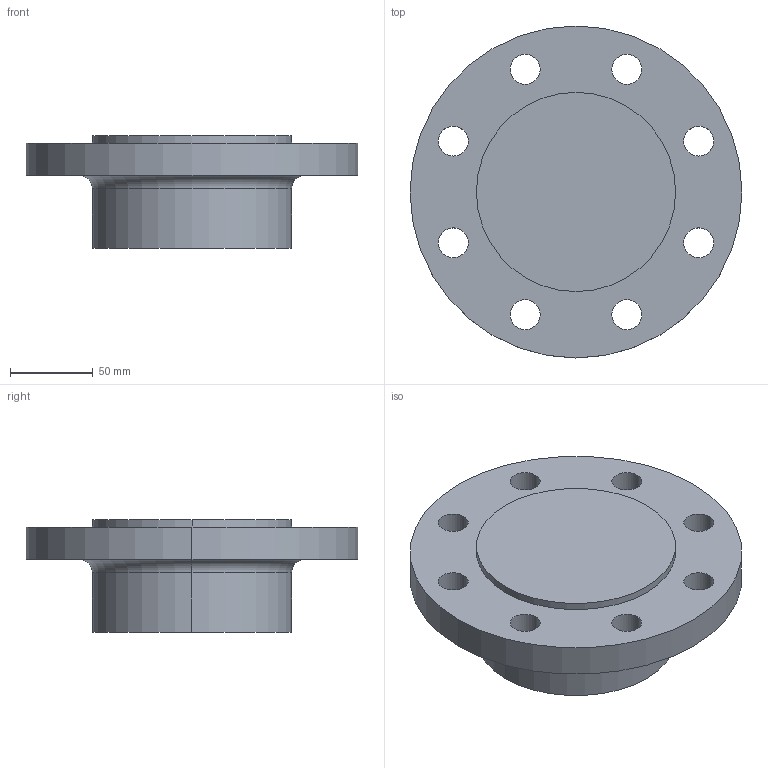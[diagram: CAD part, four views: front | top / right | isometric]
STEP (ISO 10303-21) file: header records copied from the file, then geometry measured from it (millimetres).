
FILE_DESCRIPTION (( 'STEP AP214' ), '1' );
FILE_NAME ('PN40 DN80 Type 21(i) - Type E Face.STEP', '2019-01-01T19:35:08', ( '' ), ( '' ), 'SwSTEP 2.0', 'SolidWorks 2019', '' );
FILE_SCHEMA (( 'AUTOMOTIVE_DESIGN' ));
Length unit declared in the file: millimetre
Products named in the file (1): PN40 DN80 Type 21(i) - Type E Face
Bounding box: 200 x 200 x 68 mm (x, y, z)
Volume: 1126767.5 mm3; surface area: 96852.2 mm2
Topology: 1 solids, 1 shells, 28 faces, 70 edges, 46 vertices
Faces by surface type: cylinder 22, plane 4, torus 2
Entity records: 932 total; most frequent: DIRECTION 176, CARTESIAN_POINT 145, ORIENTED_EDGE 140, AXIS2_PLACEMENT_3D 77, EDGE_CURVE 70, CIRCLE 48, VERTEX_POINT 46, EDGE_LOOP 46
